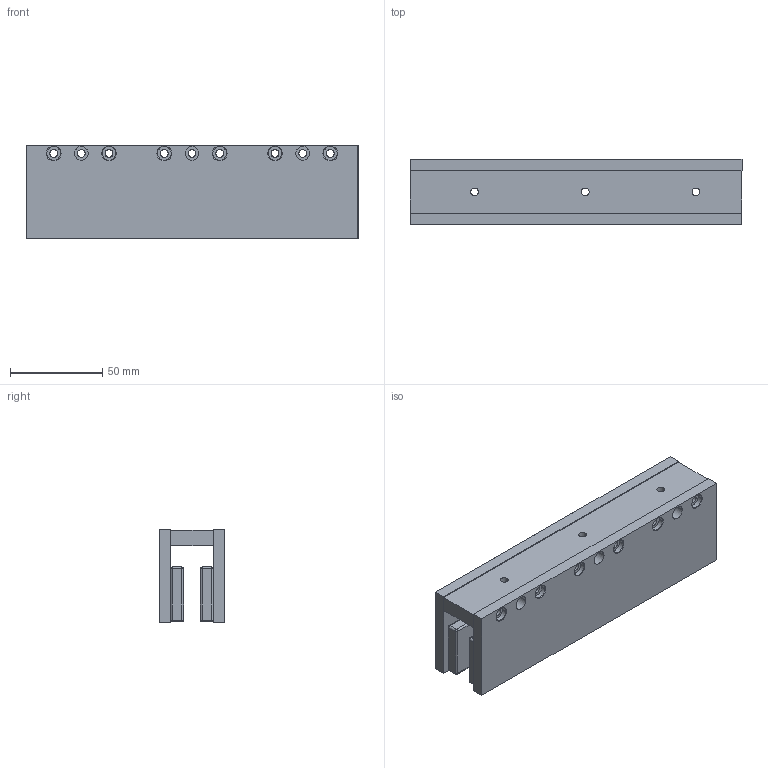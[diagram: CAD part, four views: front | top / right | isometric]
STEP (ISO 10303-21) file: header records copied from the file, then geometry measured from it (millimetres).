
FILE_DESCRIPTION (( 'STEP AP214' ), '1' );
FILE_NAME ('JKA3-180¶¨×Ó.STEP', '2025-09-05T12:41:46', ( '' ), ( '' ), 'SwSTEP 2.0', 'SolidWorks 2016', '' );
FILE_SCHEMA (( 'AUTOMOTIVE_DESIGN' ));
Length unit declared in the file: millimetre
Products named in the file (1): JKA3-180隅赽
Bounding box: 180 x 35.5 x 50.8 mm (x, y, z)
Volume: 201604.9 mm3; surface area: 83078.3 mm2
Topology: 15 solids, 15 shells, 468 faces, 1044 edges, 522 vertices
Faces by surface type: cylinder 228, plane 102, sphere 96, cone 42
Entity records: 17438 total; most frequent: DIRECTION 2384, CARTESIAN_POINT 1939, ORIENTED_EDGE 1896, AXIS2_PLACEMENT_3D 967, EDGE_CURVE 948, EDGE_LOOP 540, VERTEX_POINT 522, CIRCLE 498
